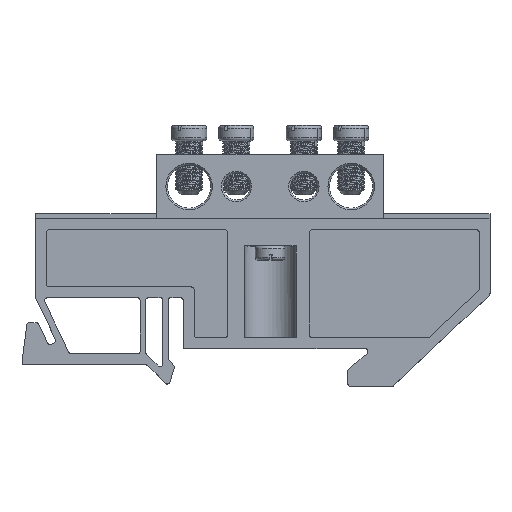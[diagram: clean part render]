
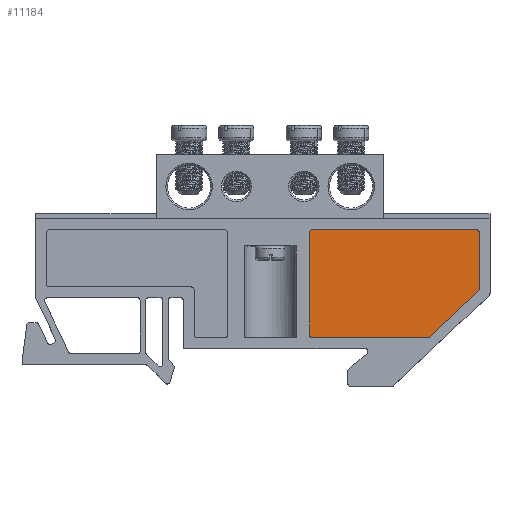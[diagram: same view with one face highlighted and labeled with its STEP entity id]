
A CAD part, top view. The second image highlights one B-rep face of the part: STEP entity #11184.
In plain terms, the highlighted planar face has unit normal (0, 0, 1).
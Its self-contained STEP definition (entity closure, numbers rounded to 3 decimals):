
#26 = CARTESIAN_POINT ( 'NONE',  ( 50.7, -2., 3.5 ) ) ;
#462 = ORIENTED_EDGE ( 'NONE', *, *, #12185, .T. ) ;
#664 = FACE_OUTER_BOUND ( 'NONE', #10172, .T. ) ;
#800 = DIRECTION ( 'NONE',  ( 0., 0., 1. ) ) ;
#1063 = AXIS2_PLACEMENT_3D ( 'NONE', #7576, #800, #8747 ) ;
#1151 = VERTEX_POINT ( 'NONE', #2360 ) ;
#1364 = CARTESIAN_POINT ( 'NONE',  ( 51.2, -2.5, 3.5 ) ) ;
#1507 = LINE ( 'NONE', #8430, #7535 ) ;
#1716 = CARTESIAN_POINT ( 'NONE',  ( 50.7, -2.5, 3.5 ) ) ;
#1755 = DIRECTION ( 'NONE',  ( 1., 0., 0. ) ) ;
#2360 = CARTESIAN_POINT ( 'NONE',  ( 51.2, -22., 3.5 ) ) ;
#2375 = CARTESIAN_POINT ( 'NONE',  ( 82.1, -2.5, 3.5 ) ) ;
#2399 = CARTESIAN_POINT ( 'NONE',  ( 82.1, -2., 3.5 ) ) ;
#2482 = DIRECTION ( 'NONE',  ( -1., 0., 0. ) ) ;
#2540 = DIRECTION ( 'NONE',  ( 0., 0., 1. ) ) ;
#2671 = EDGE_CURVE ( 'NONE', #9499, #8844, #3930, .T. ) ;
#2835 = DIRECTION ( 'NONE',  ( 0., 0., 1. ) ) ;
#2906 = ORIENTED_EDGE ( 'NONE', *, *, #14166, .T. ) ;
#2931 = CIRCLE ( 'NONE', #8748, 0.5 ) ;
#3159 = DIRECTION ( 'NONE',  ( 0., 0., -1. ) ) ;
#3930 = CIRCLE ( 'NONE', #4357, 0.5 ) ;
#3971 = CARTESIAN_POINT ( 'NONE',  ( 50.7, -2., 3.5 ) ) ;
#4104 = ORIENTED_EDGE ( 'NONE', *, *, #11930, .T. ) ;
#4282 = CARTESIAN_POINT ( 'NONE',  ( 72.861, -21.864, 3.5 ) ) ;
#4357 = AXIS2_PLACEMENT_3D ( 'NONE', #9667, #2835, #10801 ) ;
#4424 = AXIS2_PLACEMENT_3D ( 'NONE', #12616, #5791, #13741 ) ;
#4520 = VERTEX_POINT ( 'NONE', #8571 ) ;
#4923 = ORIENTED_EDGE ( 'NONE', *, *, #2671, .T. ) ;
#5063 = ORIENTED_EDGE ( 'NONE', *, *, #11838, .T. ) ;
#5218 = ORIENTED_EDGE ( 'NONE', *, *, #7118, .T. ) ;
#5791 = DIRECTION ( 'NONE',  ( 0., 0., 1. ) ) ;
#5837 = CARTESIAN_POINT ( 'NONE',  ( 81.943, -13.286, 3.5 ) ) ;
#6190 = DIRECTION ( 'NONE',  ( 0.727, 0.687, 0. ) ) ;
#6270 = AXIS2_PLACEMENT_3D ( 'NONE', #8797, #3159, #11140 ) ;
#6312 = DIRECTION ( 'NONE',  ( 0., -1., 0. ) ) ;
#6359 = CARTESIAN_POINT ( 'NONE',  ( 50.7, -21.5, 3.5 ) ) ;
#6541 = PLANE ( 'NONE',  #6270 ) ;
#6811 = DIRECTION ( 'NONE',  ( -1., 0., 0. ) ) ;
#6929 = VERTEX_POINT ( 'NONE', #4282 ) ;
#7118 = EDGE_CURVE ( 'NONE', #13570, #6929, #11129, .T. ) ;
#7263 = VERTEX_POINT ( 'NONE', #5837 ) ;
#7535 = VECTOR ( 'NONE', #6190, 1000. ) ;
#7576 = CARTESIAN_POINT ( 'NONE',  ( 51.2, -21.5, 3.5 ) ) ;
#8139 = EDGE_CURVE ( 'NONE', #4520, #12184, #9858, .T. ) ;
#8144 = VECTOR ( 'NONE', #6312, 1000. ) ;
#8430 = CARTESIAN_POINT ( 'NONE',  ( 82.1, -13.138, 3.5 ) ) ;
#8520 = LINE ( 'NONE', #3971, #8144 ) ;
#8571 = CARTESIAN_POINT ( 'NONE',  ( 51.2, -2., 3.5 ) ) ;
#8672 = ORIENTED_EDGE ( 'NONE', *, *, #12926, .T. ) ;
#8747 = DIRECTION ( 'NONE',  ( -1., 0., 0. ) ) ;
#8748 = AXIS2_PLACEMENT_3D ( 'NONE', #9373, #2540, #10502 ) ;
#8797 = CARTESIAN_POINT ( 'NONE',  ( 0., 0., 3.5 ) ) ;
#8844 = VERTEX_POINT ( 'NONE', #10479 ) ;
#8936 = ORIENTED_EDGE ( 'NONE', *, *, #14607, .T. ) ;
#9314 = DIRECTION ( 'NONE',  ( 0., 0., 1. ) ) ;
#9340 = VECTOR ( 'NONE', #6811, 1000. ) ;
#9373 = CARTESIAN_POINT ( 'NONE',  ( 81.6, -12.922, 3.5 ) ) ;
#9499 = VERTEX_POINT ( 'NONE', #2375 ) ;
#9515 = CIRCLE ( 'NONE', #1063, 0.5 ) ;
#9667 = CARTESIAN_POINT ( 'NONE',  ( 81.6, -2.5, 3.5 ) ) ;
#9720 = LINE ( 'NONE', #26, #9340 ) ;
#9858 = CIRCLE ( 'NONE', #13488, 0.5 ) ;
#9870 = LINE ( 'NONE', #14243, #12536 ) ;
#10172 = EDGE_LOOP ( 'NONE', ( #5063, #11361, #2906, #8672, #462, #5218, #10763, #4104, #8936, #4923 ) ) ;
#10362 = DIRECTION ( 'NONE',  ( 0., 1., 0. ) ) ;
#10479 = CARTESIAN_POINT ( 'NONE',  ( 81.6, -2., 3.5 ) ) ;
#10502 = DIRECTION ( 'NONE',  ( -1., 0., 0. ) ) ;
#10635 = VECTOR ( 'NONE', #10362, 1000. ) ;
#10763 = ORIENTED_EDGE ( 'NONE', *, *, #12141, .T. ) ;
#10801 = DIRECTION ( 'NONE',  ( -1., 0., 0. ) ) ;
#11129 = CIRCLE ( 'NONE', #4424, 0.5 ) ;
#11140 = DIRECTION ( 'NONE',  ( -1., 0., 0. ) ) ;
#11184 = ADVANCED_FACE ( 'NONE', ( #664 ), #6541, .F. ) ;
#11361 = ORIENTED_EDGE ( 'NONE', *, *, #8139, .T. ) ;
#11838 = EDGE_CURVE ( 'NONE', #8844, #4520, #9720, .T. ) ;
#11930 = EDGE_CURVE ( 'NONE', #7263, #13739, #2931, .T. ) ;
#12141 = EDGE_CURVE ( 'NONE', #6929, #7263, #1507, .T. ) ;
#12184 = VERTEX_POINT ( 'NONE', #1716 ) ;
#12185 = EDGE_CURVE ( 'NONE', #1151, #13570, #9870, .T. ) ;
#12492 = CARTESIAN_POINT ( 'NONE',  ( 82.1, -12.922, 3.5 ) ) ;
#12536 = VECTOR ( 'NONE', #1755, 1000. ) ;
#12616 = CARTESIAN_POINT ( 'NONE',  ( 72.518, -21.5, 3.5 ) ) ;
#12878 = CARTESIAN_POINT ( 'NONE',  ( 72.518, -22., 3.5 ) ) ;
#12926 = EDGE_CURVE ( 'NONE', #14202, #1151, #9515, .T. ) ;
#13306 = LINE ( 'NONE', #2399, #10635 ) ;
#13488 = AXIS2_PLACEMENT_3D ( 'NONE', #1364, #9314, #2482 ) ;
#13570 = VERTEX_POINT ( 'NONE', #12878 ) ;
#13739 = VERTEX_POINT ( 'NONE', #12492 ) ;
#13741 = DIRECTION ( 'NONE',  ( -1., 0., 0. ) ) ;
#14166 = EDGE_CURVE ( 'NONE', #12184, #14202, #8520, .T. ) ;
#14202 = VERTEX_POINT ( 'NONE', #6359 ) ;
#14243 = CARTESIAN_POINT ( 'NONE',  ( 72.717, -22., 3.5 ) ) ;
#14607 = EDGE_CURVE ( 'NONE', #13739, #9499, #13306, .T. ) ;
